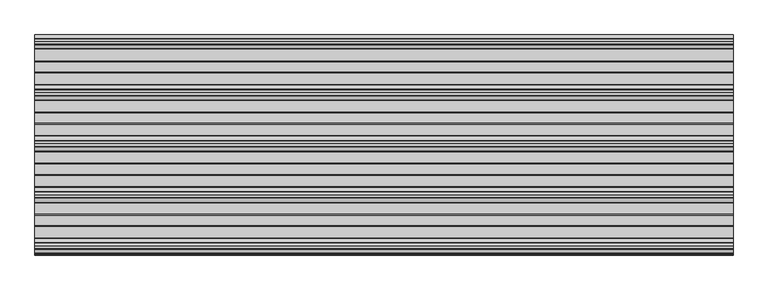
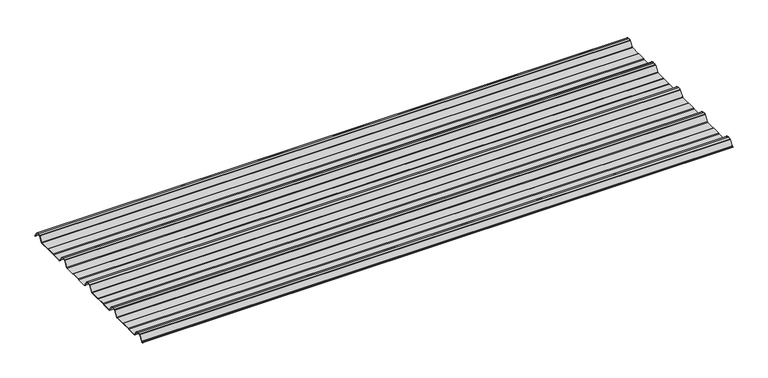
"""IFC4 building model written with IfcOpenShell, lengths in millimetres: beam geometry, 3D_Metalcraft T-Rib : 3D_Metalcraft T-Rib."""

from ifc_helpers import new_model, si_unit, point, frame, frame_2d, origin, place, context, project, spatial, polyline, circle_curve, trimmed, segment, composite_curve, outline, extrude, source, transform, mapped, element, save


def beam_6eb492fa(model_context):
    return source(origin(), model_context, "Body", "SweptSolid", [
        extrude(outline(composite_curve([segment(polyline([(-72.2377386, -25.7896475), (-76.3538889, -24.06703), (-113.6461111, -24.06703), (-117.7622614, -25.7896475), (-160.0, -25.7896475)]), True, "CONTINUOUS"), segment(trimmed(circle_curve(frame_2d((-159.2196788, -21.4509358)), 4.4083239), [point((-160.0, -25.7896475))], [point((-162.8209858, -23.9933574))], False, "CARTESIAN"), True, "CONTINUOUS"), segment(polyline([(-162.8209858, -23.9933574), (-178.3273257, -0.5940367)]), True, "CONTINUOUS"), segment(trimmed(circle_curve(frame_2d((-180.8929255, -2.3855242)), 3.1291741), [point((-178.3273257, -0.5940367))], [point((-179.9028031, 0.582874))], True, "CARTESIAN"), True, "CONTINUOUS"), segment(trimmed(circle_curve(frame_2d((-189.9940851, -29.8891871)), 32.0995402), [point((-179.9028031, 0.582874))], [point((-190.0, 2.2103525))], True, "CARTESIAN"), True, "CONTINUOUS"), segment(trimmed(circle_curve(frame_2d((-190.0059149, -29.8891871)), 32.0995402), [point((-190.0, 2.2103525))], [point((-200.0971969, 0.582874))], True, "CARTESIAN"), True, "CONTINUOUS"), segment(trimmed(circle_curve(frame_2d((-199.1070745, -2.3855242)), 3.1291741), [point((-200.0971969, 0.582874))], [point((-201.6726743, -0.5940367))], True, "CARTESIAN"), True, "CONTINUOUS"), segment(polyline([(-201.6726743, -0.5940367), (-217.1790142, -23.9933574)]), True, "CONTINUOUS"), segment(trimmed(circle_curve(frame_2d((-220.7803212, -21.4509358)), 4.4083239), [point((-217.1790142, -23.9933574))], [point((-220.0, -25.7896475))], False, "CARTESIAN"), True, "CONTINUOUS"), segment(polyline([(-220.0, -25.7896475), (-262.2377386, -25.7896475), (-266.3538889, -24.06703), (-303.6461111, -24.06703), (-307.7622614, -25.7896475), (-350.0, -25.7896475)]), True, "CONTINUOUS"), segment(trimmed(circle_curve(frame_2d((-349.2196788, -21.4509358)), 4.4083239), [point((-350.0, -25.7896475))], [point((-352.8209858, -23.9933574))], False, "CARTESIAN"), True, "CONTINUOUS"), segment(polyline([(-352.8209858, -23.9933574), (-368.3273257, -0.5940367)]), True, "CONTINUOUS"), segment(trimmed(circle_curve(frame_2d((-370.8929255, -2.3855242)), 3.1291741), [point((-368.3273257, -0.5940367))], [point((-369.9028031, 0.582874))], True, "CARTESIAN"), True, "CONTINUOUS"), segment(trimmed(circle_curve(frame_2d((-379.9940851, -29.8891871)), 32.0995402), [point((-369.9028031, 0.582874))], [point((-380.0, 2.2103525))], True, "CARTESIAN"), True, "CONTINUOUS"), segment(trimmed(circle_curve(frame_2d((-380.0059149, -29.8891871)), 32.0995402), [point((-380.0, 2.2103525))], [point((-390.0971969, 0.582874))], True, "CARTESIAN"), True, "CONTINUOUS"), segment(trimmed(circle_curve(frame_2d((-389.1070745, -2.3855242)), 3.1291741), [point((-390.0971969, 0.582874))], [point((-391.6726743, -0.5940367))], True, "CARTESIAN"), True, "CONTINUOUS"), segment(polyline([(-391.6726743, -0.5940367), (-407.1790142, -23.9933574)]), True, "CONTINUOUS"), segment(trimmed(circle_curve(frame_2d((-410.7803212, -21.4509358)), 4.4083239), [point((-407.1790142, -23.9933574))], [point((-410.0, -25.7896475))], False, "CARTESIAN"), True, "CONTINUOUS"), segment(polyline([(-410.0, -25.7896475), (-452.2377387, -25.7896475), (-456.3538889, -24.06703), (-493.6461111, -24.06703), (-497.7622614, -25.7896475), (-540.0, -25.7896475)]), True, "CONTINUOUS"), segment(trimmed(circle_curve(frame_2d((-539.2196788, -21.4509358)), 4.4083239), [point((-540.0, -25.7896475))], [point((-542.8209858, -23.9933574))], False, "CARTESIAN"), True, "CONTINUOUS"), segment(polyline([(-542.8209858, -23.9933574), (-558.3273257, -0.5940367)]), True, "CONTINUOUS"), segment(trimmed(circle_curve(frame_2d((-560.8929255, -2.3855242)), 3.1291741), [point((-558.3273257, -0.5940367))], [point((-559.9028031, 0.582874))], True, "CARTESIAN"), True, "CONTINUOUS"), segment(trimmed(circle_curve(frame_2d((-569.9940851, -29.8891871)), 32.0995402), [point((-559.9028031, 0.582874))], [point((-570.0, 2.2103525))], True, "CARTESIAN"), True, "CONTINUOUS"), segment(trimmed(circle_curve(frame_2d((-570.0059149, -29.8891871)), 32.0995402), [point((-570.0, 2.2103525))], [point((-580.0971969, 0.582874))], True, "CARTESIAN"), True, "CONTINUOUS"), segment(trimmed(circle_curve(frame_2d((-579.1070745, -2.3855242)), 3.1291741), [point((-580.0971969, 0.582874))], [point((-581.6726743, -0.5940367))], True, "CARTESIAN"), True, "CONTINUOUS"), segment(polyline([(-581.6726743, -0.5940367), (-597.1790142, -23.9933574)]), True, "CONTINUOUS"), segment(trimmed(circle_curve(frame_2d((-600.7803212, -21.4509358)), 4.4083239), [point((-597.1790142, -23.9933574))], [point((-600.0, -25.7896475))], False, "CARTESIAN"), True, "CONTINUOUS"), segment(polyline([(-600.0, -25.7896475), (-642.2377387, -25.7896475), (-646.3538889, -24.06703), (-683.6461111, -24.06703), (-687.7622614, -25.7896475), (-730.0, -25.7896475)]), True, "CONTINUOUS"), segment(trimmed(circle_curve(frame_2d((-729.2196788, -21.4509358)), 4.4083239), [point((-730.0, -25.7896475))], [point((-732.8209858, -23.9933574))], False, "CARTESIAN"), True, "CONTINUOUS"), segment(polyline([(-732.8209858, -23.9933574), (-748.3273257, -0.5940367)]), True, "CONTINUOUS"), segment(trimmed(circle_curve(frame_2d((-750.8929255, -2.3855242)), 3.1291741), [point((-748.3273257, -0.5940367))], [point((-749.9028031, 0.582874))], True, "CARTESIAN"), True, "CONTINUOUS"), segment(trimmed(circle_curve(frame_2d((-759.9940851, -29.8891871)), 32.0995402), [point((-749.9028031, 0.582874))], [point((-760.0, 2.2103525))], True, "CARTESIAN"), True, "CONTINUOUS"), segment(trimmed(circle_curve(frame_2d((-760.0059149, -29.8891871)), 32.0995402), [point((-760.0, 2.2103525))], [point((-770.0971969, 0.582874))], True, "CARTESIAN"), True, "CONTINUOUS"), segment(trimmed(circle_curve(frame_2d((-769.1070745, -2.3855242)), 3.1291741), [point((-770.0971969, 0.582874))], [point((-771.6726743, -0.5940367))], True, "CARTESIAN"), True, "CONTINUOUS"), segment(polyline([(-771.6726743, -0.5940367), (-785.8536479, -21.993358)]), True, "CONTINUOUS"), segment(trimmed(circle_curve(frame_2d((-789.4549545, -19.4509358)), 4.4083239), [point((-785.8536479, -21.993358))], [point((-788.6746333, -23.7896475))], False, "CARTESIAN"), True, "CONTINUOUS"), segment(polyline([(-788.6746333, -23.7896475), (-792.3232685, -23.7896475)]), True, "CONTINUOUS"), segment(trimmed(circle_curve(frame_2d((-792.3232685, -23.2896475)), 0.5), [point((-792.3232685, -23.7896475))], [point((-792.3232685, -22.7896475))], False, "CARTESIAN"), True, "CONTINUOUS"), segment(polyline([(-792.3232685, -22.7896475), (-788.769625, -22.7896475)]), True, "CONTINUOUS"), segment(trimmed(circle_curve(frame_2d((-789.4549545, -19.4509358)), 3.4083239), [point((-788.769625, -22.7896475))], [point((-786.6785605, -21.42788))], True, "CARTESIAN"), True, "CONTINUOUS"), segment(polyline([(-786.6785605, -21.42788), (-772.5, -0.0322)]), True, "CONTINUOUS"), segment(trimmed(circle_curve(frame_2d((-769.1070745, -2.3855242)), 4.1291741), [point((-772.5, -0.0322))], [point((-770.41253, 1.5318556))], False, "CARTESIAN"), True, "CONTINUOUS"), segment(trimmed(circle_curve(frame_2d((-760.0059149, -29.8891871)), 33.0995402), [point((-770.41253, 1.5318556))], [point((-760.0, 3.2103525))], False, "CARTESIAN"), True, "CONTINUOUS"), segment(trimmed(circle_curve(frame_2d((-759.9940851, -29.8891871)), 33.0995402), [point((-760.0, 3.2103525))], [point((-749.58747, 1.5318556))], False, "CARTESIAN"), True, "CONTINUOUS"), segment(trimmed(circle_curve(frame_2d((-750.8929255, -2.3855242)), 4.1291741), [point((-749.58747, 1.5318556))], [point((-747.5, -0.0322))], False, "CARTESIAN"), True, "CONTINUOUS"), segment(polyline([(-747.5, -0.0322), (-732.1223092, -23.2373872)]), True, "CONTINUOUS"), segment(trimmed(circle_curve(frame_2d((-729.2196788, -21.4509358)), 3.4083239), [point((-732.1223092, -23.2373872))], [point((-729.9050084, -24.7896475))], True, "CARTESIAN"), True, "CONTINUOUS"), segment(polyline([(-729.9050084, -24.7896475), (-687.9630742, -24.7896475), (-683.846924, -23.06703), (-646.1530761, -23.06703), (-642.0369258, -24.7896475), (-600.0949917, -24.7896475)]), True, "CONTINUOUS"), segment(trimmed(circle_curve(frame_2d((-600.7803212, -21.4509358)), 3.4083239), [point((-600.0949917, -24.7896475))], [point((-597.8776908, -23.2373872))], True, "CARTESIAN"), True, "CONTINUOUS"), segment(polyline([(-597.8776908, -23.2373872), (-582.5, -0.0322)]), True, "CONTINUOUS"), segment(trimmed(circle_curve(frame_2d((-579.1070745, -2.3855242)), 4.1291741), [point((-582.5, -0.0322))], [point((-580.41253, 1.5318556))], False, "CARTESIAN"), True, "CONTINUOUS"), segment(trimmed(circle_curve(frame_2d((-570.0059149, -29.8891871)), 33.0995402), [point((-580.41253, 1.5318556))], [point((-570.0, 3.2103525))], False, "CARTESIAN"), True, "CONTINUOUS"), segment(trimmed(circle_curve(frame_2d((-569.9940851, -29.8891871)), 33.0995402), [point((-570.0, 3.2103525))], [point((-559.58747, 1.5318556))], False, "CARTESIAN"), True, "CONTINUOUS"), segment(trimmed(circle_curve(frame_2d((-560.8929255, -2.3855242)), 4.1291741), [point((-559.58747, 1.5318556))], [point((-557.5, -0.0322))], False, "CARTESIAN"), True, "CONTINUOUS"), segment(polyline([(-557.5, -0.0322), (-542.1223092, -23.2373872)]), True, "CONTINUOUS"), segment(trimmed(circle_curve(frame_2d((-539.2196788, -21.4509358)), 3.4083239), [point((-542.1223092, -23.2373872))], [point((-539.9050084, -24.7896475))], True, "CARTESIAN"), True, "CONTINUOUS"), segment(polyline([(-539.9050084, -24.7896475), (-497.9630742, -24.7896475), (-493.846924, -23.06703), (-456.1530761, -23.06703), (-452.0369258, -24.7896475), (-410.0949917, -24.7896475)]), True, "CONTINUOUS"), segment(trimmed(circle_curve(frame_2d((-410.7803212, -21.4509358)), 3.4083239), [point((-410.0949917, -24.7896475))], [point((-407.8776908, -23.2373872))], True, "CARTESIAN"), True, "CONTINUOUS"), segment(polyline([(-407.8776908, -23.2373872), (-392.5, -0.0322)]), True, "CONTINUOUS"), segment(trimmed(circle_curve(frame_2d((-389.1070745, -2.3855242)), 4.1291741), [point((-392.5, -0.0322))], [point((-390.41253, 1.5318556))], False, "CARTESIAN"), True, "CONTINUOUS"), segment(trimmed(circle_curve(frame_2d((-380.0059149, -29.8891871)), 33.0995402), [point((-390.41253, 1.5318556))], [point((-380.0, 3.2103525))], False, "CARTESIAN"), True, "CONTINUOUS"), segment(trimmed(circle_curve(frame_2d((-379.9940851, -29.8891871)), 33.0995402), [point((-380.0, 3.2103525))], [point((-369.58747, 1.5318556))], False, "CARTESIAN"), True, "CONTINUOUS"), segment(trimmed(circle_curve(frame_2d((-370.8929255, -2.3855242)), 4.1291741), [point((-369.58747, 1.5318556))], [point((-367.5, -0.0322))], False, "CARTESIAN"), True, "CONTINUOUS"), segment(polyline([(-367.5, -0.0322), (-352.1223092, -23.2373872)]), True, "CONTINUOUS"), segment(trimmed(circle_curve(frame_2d((-349.2196788, -21.4509358)), 3.4083239), [point((-352.1223092, -23.2373872))], [point((-349.9050084, -24.7896475))], True, "CARTESIAN"), True, "CONTINUOUS"), segment(polyline([(-349.9050084, -24.7896475), (-307.9630742, -24.7896475), (-303.846924, -23.06703), (-266.153076, -23.06703), (-262.0369258, -24.7896475), (-220.0949917, -24.7896475)]), True, "CONTINUOUS"), segment(trimmed(circle_curve(frame_2d((-220.7803212, -21.4509358)), 3.4083239), [point((-220.0949917, -24.7896475))], [point((-217.8776908, -23.2373872))], True, "CARTESIAN"), True, "CONTINUOUS"), segment(polyline([(-217.8776908, -23.2373872), (-202.5, -0.0322)]), True, "CONTINUOUS"), segment(trimmed(circle_curve(frame_2d((-199.1070745, -2.3855242)), 4.1291741), [point((-202.5, -0.0322))], [point((-200.41253, 1.5318556))], False, "CARTESIAN"), True, "CONTINUOUS"), segment(trimmed(circle_curve(frame_2d((-190.0059149, -29.8891871)), 33.0995402), [point((-200.41253, 1.5318556))], [point((-190.0, 3.2103525))], False, "CARTESIAN"), True, "CONTINUOUS"), segment(trimmed(circle_curve(frame_2d((-189.9940851, -29.8891871)), 33.0995402), [point((-190.0, 3.2103525))], [point((-179.58747, 1.5318556))], False, "CARTESIAN"), True, "CONTINUOUS"), segment(trimmed(circle_curve(frame_2d((-180.8929255, -2.3855242)), 4.1291741), [point((-179.58747, 1.5318556))], [point((-177.5, -0.0322))], False, "CARTESIAN"), True, "CONTINUOUS"), segment(polyline([(-177.5, -0.0322), (-162.1223092, -23.2373872)]), True, "CONTINUOUS"), segment(trimmed(circle_curve(frame_2d((-159.2196788, -21.4509358)), 3.4083239), [point((-162.1223092, -23.2373872))], [point((-159.9050084, -24.7896475))], True, "CARTESIAN"), True, "CONTINUOUS"), segment(polyline([(-159.9050084, -24.7896475), (-117.9630742, -24.7896475), (-113.846924, -23.06703), (-76.153076, -23.06703), (-72.0369258, -24.7896475), (-27.6957008, -24.7896475)]), True, "CONTINUOUS"), segment(trimmed(circle_curve(frame_2d((-28.3810303, -21.4509358)), 3.4083239), [point((-27.6957008, -24.7896475))], [point((-25.6046359, -23.4278795))], True, "CARTESIAN"), True, "CONTINUOUS"), segment(polyline([(-25.6046359, -23.4278795), (-10.8390947, -1.146436)]), True, "CONTINUOUS"), segment(trimmed(circle_curve(frame_2d((-9.2408211, -2.2055853)), 1.9173616), [point((-10.8390947, -1.146436))], [point((-9.7828223, -0.366425))], False, "CARTESIAN"), True, "CONTINUOUS"), segment(trimmed(circle_curve(frame_2d((-0.0059149, -29.8891871)), 31.0995402), [point((-9.7828223, -0.366425))], [point((0.0, 1.2103525))], False, "CARTESIAN"), True, "CONTINUOUS"), segment(trimmed(circle_curve(frame_2d((0.0059149, -29.8891871)), 31.0995402), [point((0.0, 1.2103525))], [point((9.7828223, -0.366425))], False, "CARTESIAN"), True, "CONTINUOUS"), segment(trimmed(circle_curve(frame_2d((9.2408211, -2.2055853)), 1.9173616), [point((9.7828223, -0.366425))], [point((10.8390947, -1.146436))], False, "CARTESIAN"), True, "CONTINUOUS"), segment(polyline([(10.8390947, -1.146436), (25.1846039, -22.7940443)]), True, "CONTINUOUS"), segment(trimmed(circle_curve(frame_2d((24.7678141, -23.0702439)), 0.5), [point((25.1846039, -22.7940443))], [point((24.3510243, -23.3464436))], False, "CARTESIAN"), True, "CONTINUOUS"), segment(polyline([(24.3510243, -23.3464436), (10.1734573, -1.9522629)]), True, "CONTINUOUS"), segment(trimmed(circle_curve(frame_2d((8.6614124, -2.9542699)), 1.8139178), [point((10.1734573, -1.9522629))], [point((9.071517, -1.18732))], True, "CARTESIAN"), True, "CONTINUOUS"), segment(trimmed(circle_curve(frame_2d((0.0059149, -29.8891871)), 30.0995402), [point((9.071517, -1.18732))], [point((0.0, 0.2103525))], True, "CARTESIAN"), True, "CONTINUOUS"), segment(trimmed(circle_curve(frame_2d((-0.0059149, -29.8891871)), 30.0995402), [point((0.0, 0.2103525))], [point((-9.071517, -1.18732))], True, "CARTESIAN"), True, "CONTINUOUS"), segment(trimmed(circle_curve(frame_2d((-8.6614124, -2.9542699)), 1.8139178), [point((-9.071517, -1.18732))], [point((-10.1734573, -1.9522629))], True, "CARTESIAN"), True, "CONTINUOUS"), segment(polyline([(-10.1734573, -1.9522629), (-24.7797233, -23.9933574)]), True, "CONTINUOUS"), segment(trimmed(circle_curve(frame_2d((-28.3810303, -21.4509358)), 4.4083239), [point((-24.7797233, -23.9933574))], [point((-27.6007091, -25.7896475))], False, "CARTESIAN"), True, "CONTINUOUS"), segment(polyline([(-27.6007091, -25.7896475), (-72.2377386, -25.7896475)]), True, "CONTINUOUS")], self_intersect=False)), frame((-1297.4962986, 0.0, 0.0), z_axis=(1.0, 0.0, 0.0), x_axis=(0.0, 1.0, 0.0)), (0.0, 0.0, 1.0), 2594.9925972),
    ])


if __name__ == "__main__":
    model = new_model("IFC4")
    model_context = context("Model", 3, world=origin())
    ifc_project = project(units=[si_unit("LENGTHUNIT", "METRE", prefix="MILLI")], contexts=[model_context])
    site = spatial("IfcSite", under=ifc_project)
    building = spatial("IfcBuilding", under=site)
    placement = place(None, origin())
    beam_shape = beam_6eb492fa(model_context)
    element("IfcBeam", 1, ObjectType="3D_Metalcraft T-Rib : 3D_Metalcraft T-Rib", at=placement, inside=building, context=model_context, shape_type="MappedRepresentation", body=[
        mapped(beam_shape, transform((0.0, 0.0, 0.0), x_axis=(1.0, 0.0, 0.0), y_axis=(0.0, 1.0, 0.0), z_axis=(0.0, 0.0, 1.0))),
    ])
    save(model, "model.ifc")
